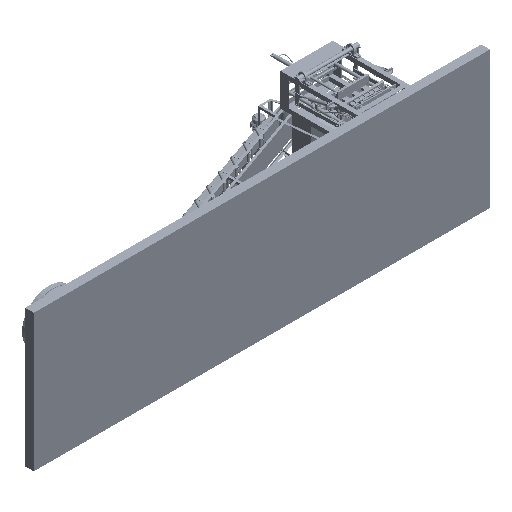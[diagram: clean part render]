
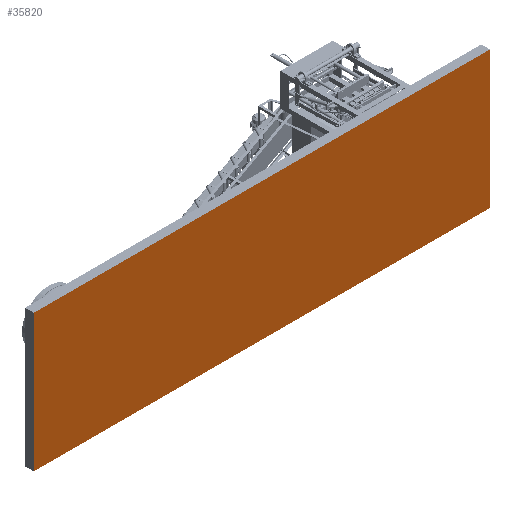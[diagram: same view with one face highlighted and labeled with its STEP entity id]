
A CAD part, isometric view. The second image highlights one B-rep face of the part: STEP entity #35820.
In plain terms, the highlighted planar face has unit normal (0, -1, 0) as drawn and (0, 0, 1) by its records, which use the part's own axes.
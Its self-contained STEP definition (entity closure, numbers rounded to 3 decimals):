
#28488=PLANE('',#165657);
#35820=ADVANCED_FACE('',(#45893),#28488,.T.);
#45893=FACE_OUTER_BOUND('',#54214,.T.);
#54214=EDGE_LOOP('',(#101643,#101644,#101645,#101646));
#64316=LINE('',#273016,#75251);
#64317=LINE('',#273019,#75252);
#64318=LINE('',#273021,#75253);
#64319=LINE('',#273023,#75254);
#75251=VECTOR('',#190420,1.);
#75252=VECTOR('',#190421,1.);
#75253=VECTOR('',#190422,1.);
#75254=VECTOR('',#190423,1.);
#101643=ORIENTED_EDGE('',*,*,#144142,.T.);
#101644=ORIENTED_EDGE('',*,*,#144143,.T.);
#101645=ORIENTED_EDGE('',*,*,#144144,.T.);
#101646=ORIENTED_EDGE('',*,*,#144145,.T.);
#127535=VERTEX_POINT('',#273017);
#127536=VERTEX_POINT('',#273018);
#127537=VERTEX_POINT('',#273020);
#127538=VERTEX_POINT('',#273022);
#144142=EDGE_CURVE('',#127535,#127536,#64316,.T.);
#144143=EDGE_CURVE('',#127536,#127537,#64317,.T.);
#144144=EDGE_CURVE('',#127537,#127538,#64318,.T.);
#144145=EDGE_CURVE('',#127538,#127535,#64319,.T.);
#165657=AXIS2_PLACEMENT_3D('',#273024,#190424,#190425);
#190420=DIRECTION('',(0.,1.,0.));
#190421=DIRECTION('',(-1.,0.,0.));
#190422=DIRECTION('',(0.,-1.,0.));
#190423=DIRECTION('',(1.,0.,0.));
#190424=DIRECTION('',(0.,0.,1.));
#190425=DIRECTION('',(-1.,0.,0.));
#273016=CARTESIAN_POINT('',(8464.592,0.,200.));
#273017=CARTESIAN_POINT('',(8464.592,-608.305,200.));
#273018=CARTESIAN_POINT('',(8464.592,2539.053,200.));
#273019=CARTESIAN_POINT('',(0.,2539.053,200.));
#273020=CARTESIAN_POINT('',(-1994.089,2539.053,200.));
#273021=CARTESIAN_POINT('',(-1994.089,0.,200.));
#273022=CARTESIAN_POINT('',(-1994.089,-608.305,200.));
#273023=CARTESIAN_POINT('',(0.,-608.305,200.));
#273024=CARTESIAN_POINT('',(0.,0.,200.));
